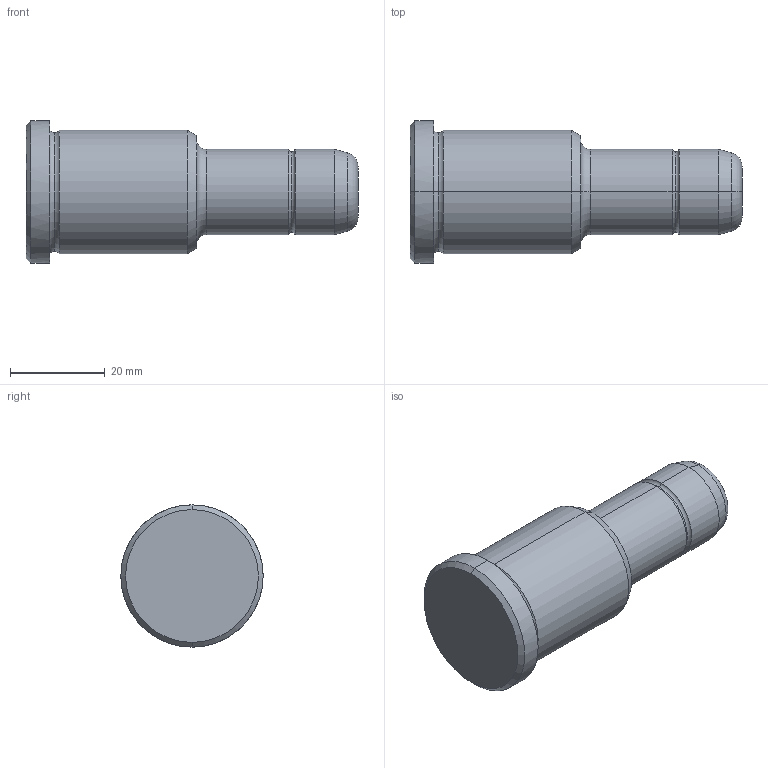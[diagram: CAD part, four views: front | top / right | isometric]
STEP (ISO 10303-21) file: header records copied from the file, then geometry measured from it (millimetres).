
FILE_DESCRIPTION(('CATIA V5 STEP Exchange'),'2;1');
FILE_NAME('C:\Users\Utente\Desktop\IO LAVORO\3D X SITO CF\X SITO\PLASTICA\351\351-18X36X70.stp','2021-08-19T12:43:57+00:00',('none'),('none'),'CATIA Version 5 Release 20 GA (IN-10)','CATIA V5 STEP AP203','none');
FILE_SCHEMA(('CONFIG_CONTROL_DESIGN'));
Length unit declared in the file: millimetre
Products named in the file (1): 351-18X36X70
Bounding box: 70 x 30 x 30 mm (x, y, z)
Volume: 28244.3 mm3; surface area: 6088.4 mm2
Topology: 1 solids, 1 shells, 30 faces, 86 edges, 60 vertices
Faces by surface type: torus 12, cylinder 8, cone 6, plane 4
Entity records: 1112 total; most frequent: CARTESIAN_POINT 289, ORIENTED_EDGE 172, DIRECTION 138, AXIS2_PLACEMENT_3D 95, EDGE_CURVE 86, CIRCLE 64, VERTEX_POINT 60, EDGE_LOOP 32
